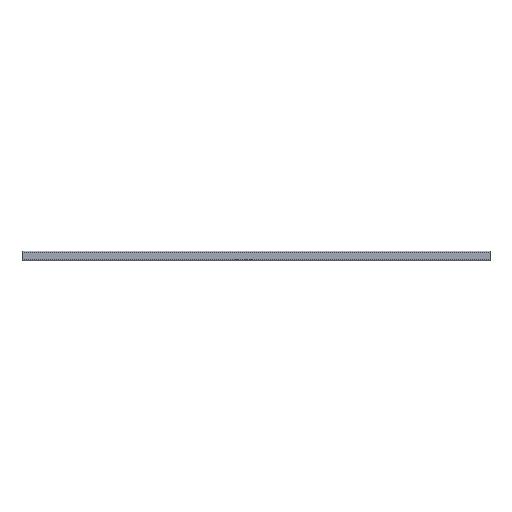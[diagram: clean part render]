
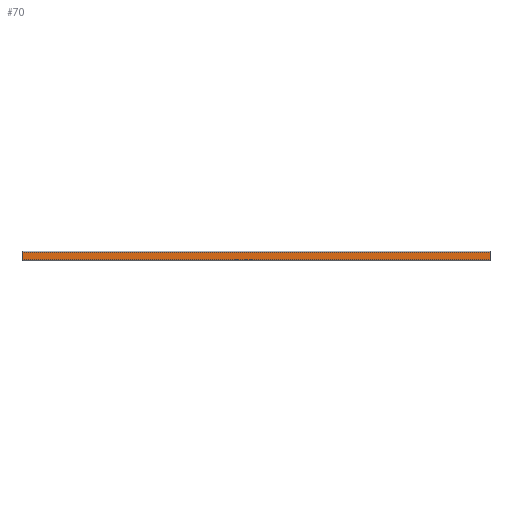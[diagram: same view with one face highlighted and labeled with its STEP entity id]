
A CAD part, top view. The second image highlights one B-rep face of the part: STEP entity #70.
In plain terms, the highlighted planar face has unit normal (0, 0, 1).
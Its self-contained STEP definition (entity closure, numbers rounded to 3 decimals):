
#70 = ADVANCED_FACE( '', ( #155 ), #156, .F. );
#155 = FACE_OUTER_BOUND( '', #252, .T. );
#156 = PLANE( '', #253 );
#252 = EDGE_LOOP( '', ( #383, #384, #385, #386 ) );
#253 = AXIS2_PLACEMENT_3D( '', #387, #388, #389 );
#383 = ORIENTED_EDGE( '', *, *, #644, .T. );
#384 = ORIENTED_EDGE( '', *, *, #645, .F. );
#385 = ORIENTED_EDGE( '', *, *, #646, .F. );
#386 = ORIENTED_EDGE( '', *, *, #647, .T. );
#387 = CARTESIAN_POINT( '', ( 1272., 10.5, 25. ) );
#388 = DIRECTION( '', ( 0., 0., -1. ) );
#389 = DIRECTION( '', ( -1., 0., 0. ) );
#644 = EDGE_CURVE( '', #784, #785, #786, .T. );
#645 = EDGE_CURVE( '', #787, #785, #788, .T. );
#646 = EDGE_CURVE( '', #789, #787, #790, .T. );
#647 = EDGE_CURVE( '', #789, #784, #791, .T. );
#784 = VERTEX_POINT( '', #971 );
#785 = VERTEX_POINT( '', #972 );
#786 = LINE( '', #973, #974 );
#787 = VERTEX_POINT( '', #975 );
#788 = LINE( '', #976, #977 );
#789 = VERTEX_POINT( '', #978 );
#790 = LINE( '', #979, #980 );
#791 = LINE( '', #981, #982 );
#971 = CARTESIAN_POINT( '', ( 0., 10.5, 25. ) );
#972 = CARTESIAN_POINT( '', ( 0., -10.5, 25. ) );
#973 = CARTESIAN_POINT( '', ( 0., 10.5, 25. ) );
#974 = VECTOR( '', #1173, 1000. );
#975 = CARTESIAN_POINT( '', ( 1272., -10.5, 25. ) );
#976 = CARTESIAN_POINT( '', ( 1272., -10.5, 25. ) );
#977 = VECTOR( '', #1174, 1000. );
#978 = CARTESIAN_POINT( '', ( 1272., 10.5, 25. ) );
#979 = CARTESIAN_POINT( '', ( 1272., 10.5, 25. ) );
#980 = VECTOR( '', #1175, 1000. );
#981 = CARTESIAN_POINT( '', ( 1272., 10.5, 25. ) );
#982 = VECTOR( '', #1176, 1000. );
#1173 = DIRECTION( '', ( 0., -1., 0. ) );
#1174 = DIRECTION( '', ( -1., 0., 0. ) );
#1175 = DIRECTION( '', ( 0., -1., 0. ) );
#1176 = DIRECTION( '', ( -1., 0., 0. ) );
